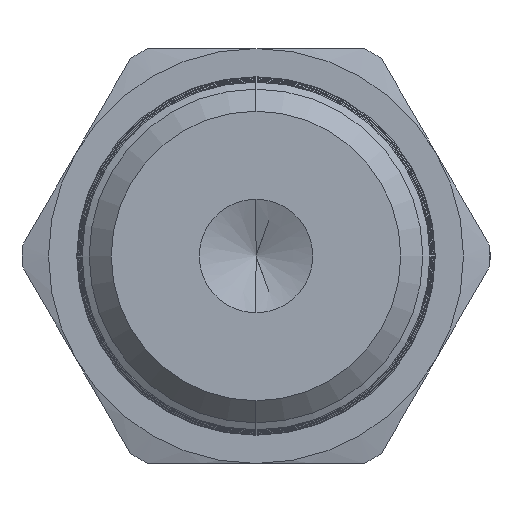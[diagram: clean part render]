
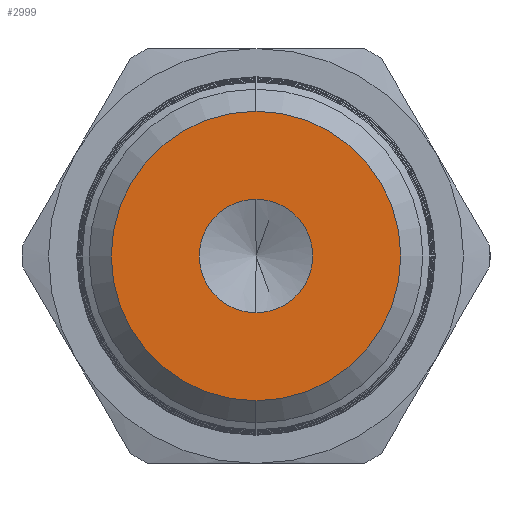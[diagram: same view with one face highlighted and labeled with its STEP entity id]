
A CAD part, left-side view. The second image highlights one B-rep face of the part: STEP entity #2999.
In plain terms, the highlighted planar face has unit normal (-1, 0, 0).
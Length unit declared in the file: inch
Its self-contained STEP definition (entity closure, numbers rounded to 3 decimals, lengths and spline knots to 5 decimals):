
#132 = CARTESIAN_POINT ( 'NONE',  ( 0., 0., -0.0855 ) ) ;
#149 = CARTESIAN_POINT ( 'NONE',  ( 0., 0., 0.21799 ) ) ;
#162 = CARTESIAN_POINT ( 'NONE',  ( 0., 0., -0.21799 ) ) ;
#219 = CARTESIAN_POINT ( 'NONE',  ( 0., 0., 0.0855 ) ) ;
#861 = CARTESIAN_POINT ( 'NONE',  ( 0., 0., 0. ) ) ;
#862 = DIRECTION ( 'NONE',  ( -1., 0., 0. ) ) ;
#863 = DIRECTION ( 'NONE',  ( 0., 0., 1. ) ) ;
#876 = CARTESIAN_POINT ( 'NONE',  ( 0., 0., 0. ) ) ;
#877 = DIRECTION ( 'NONE',  ( -1., 0., 0. ) ) ;
#878 = DIRECTION ( 'NONE',  ( 0., 0., 1. ) ) ;
#1334 = EDGE_CURVE ( 'NONE', #3317, #3230, #6654, .T. ) ;
#1335 = EDGE_CURVE ( 'NONE', #3260, #3247, #6656, .T. ) ;
#2999 = ADVANCED_FACE ( 'NONE', ( #15517, #15518 ), #15519, .F. ) ;
#3230 = VERTEX_POINT ( 'NONE', #132 ) ;
#3247 = VERTEX_POINT ( 'NONE', #149 ) ;
#3260 = VERTEX_POINT ( 'NONE', #162 ) ;
#3317 = VERTEX_POINT ( 'NONE', #219 ) ;
#3375 = EDGE_LOOP ( 'NONE', ( #5498, #5499 ) ) ;
#3476 = EDGE_LOOP ( 'NONE', ( #15915, #15940 ) ) ;
#3806 = EDGE_CURVE ( 'NONE', #3247, #3260, #8665, .T. ) ;
#3811 = EDGE_CURVE ( 'NONE', #3230, #3317, #8670, .T. ) ;
#5498 = ORIENTED_EDGE ( 'NONE', *, *, #1334, .F. ) ;
#5499 = ORIENTED_EDGE ( 'NONE', *, *, #3811, .F. ) ;
#6248 = CARTESIAN_POINT ( 'NONE',  ( 0., 0., 0. ) ) ;
#6249 = DIRECTION ( 'NONE',  ( -1., 0., 0. ) ) ;
#6250 = DIRECTION ( 'NONE',  ( 0., 0., 1. ) ) ;
#6251 = CARTESIAN_POINT ( 'NONE',  ( 0., 0., 0. ) ) ;
#6252 = DIRECTION ( 'NONE',  ( -1., 0., 0. ) ) ;
#6253 = DIRECTION ( 'NONE',  ( 0., 0., 1. ) ) ;
#6654 = CIRCLE ( 'NONE', #6659, 0.0855 ) ;
#6656 = CIRCLE ( 'NONE', #6661, 0.21799 ) ;
#6659 = AXIS2_PLACEMENT_3D ( 'NONE', #6248, #6249, #6250 ) ;
#6661 = AXIS2_PLACEMENT_3D ( 'NONE', #6251, #6252, #6253 ) ;
#8314 = AXIS2_PLACEMENT_3D ( 'NONE', #15513, #15521, #15522 ) ;
#8665 = CIRCLE ( 'NONE', #8667, 0.21799 ) ;
#8667 = AXIS2_PLACEMENT_3D ( 'NONE', #861, #862, #863 ) ;
#8670 = CIRCLE ( 'NONE', #8674, 0.0855 ) ;
#8674 = AXIS2_PLACEMENT_3D ( 'NONE', #876, #877, #878 ) ;
#15513 = CARTESIAN_POINT ( 'NONE',  ( 0., 0.36084, 0. ) ) ;
#15517 = FACE_BOUND ( 'NONE', #3375, .T. ) ;
#15518 = FACE_OUTER_BOUND ( 'NONE', #3476, .T. ) ;
#15519 = PLANE ( 'NONE',  #8314 ) ;
#15521 = DIRECTION ( 'NONE',  ( 1., 0., 0. ) ) ;
#15522 = DIRECTION ( 'NONE',  ( 0., 0., -1. ) ) ;
#15915 = ORIENTED_EDGE ( 'NONE', *, *, #1335, .T. ) ;
#15940 = ORIENTED_EDGE ( 'NONE', *, *, #3806, .T. ) ;
